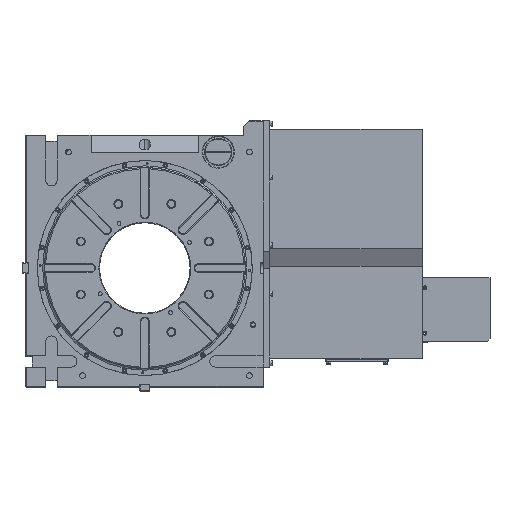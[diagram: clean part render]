
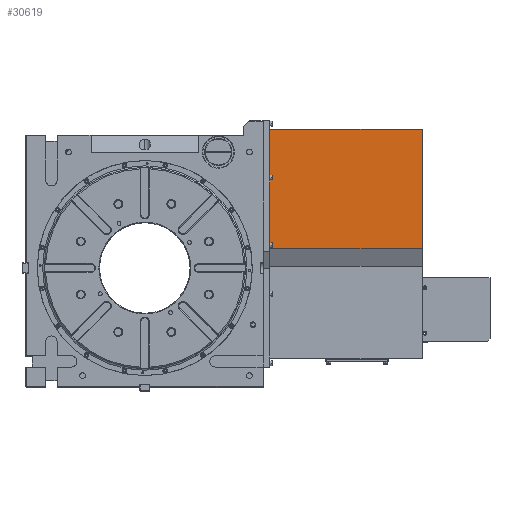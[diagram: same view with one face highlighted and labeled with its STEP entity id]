
A CAD part, top view. The second image highlights one B-rep face of the part: STEP entity #30619.
In plain terms, the highlighted planar face has unit normal (0, 0, 1).
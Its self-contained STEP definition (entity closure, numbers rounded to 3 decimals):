
#1564 = DIRECTION ( 'NONE',  ( -1., 0., 0. ) ) ;
#2101 = CARTESIAN_POINT ( 'NONE',  ( 490., -175., -25. ) ) ;
#3722 = LINE ( 'NONE', #24885, #12779 ) ;
#5637 = VECTOR ( 'NONE', #24547, 1000. ) ;
#8079 = EDGE_CURVE ( 'NONE', #52267, #21236, #36181, .T. ) ;
#8318 = DIRECTION ( 'NONE',  ( 0., 0., 1. ) ) ;
#8347 = CARTESIAN_POINT ( 'NONE',  ( 490., 245., -25. ) ) ;
#10067 = CARTESIAN_POINT ( 'NONE',  ( 490., 245., -25. ) ) ;
#10103 = LINE ( 'NONE', #26592, #38961 ) ;
#11175 = DIRECTION ( 'NONE',  ( 0., 1., 0. ) ) ;
#12779 = VECTOR ( 'NONE', #29283, 1000. ) ;
#13366 = ORIENTED_EDGE ( 'NONE', *, *, #40307, .F. ) ;
#14670 = AXIS2_PLACEMENT_3D ( 'NONE', #16542, #8318, #50066 ) ;
#16542 = CARTESIAN_POINT ( 'NONE',  ( 490., -175., -25. ) ) ;
#20128 = PLANE ( 'NONE',  #14670 ) ;
#21187 = CARTESIAN_POINT ( 'NONE',  ( 490., 33.739, -25. ) ) ;
#21236 = VERTEX_POINT ( 'NONE', #10067 ) ;
#23862 = VERTEX_POINT ( 'NONE', #33988 ) ;
#24547 = DIRECTION ( 'NONE',  ( -1., 0., 0. ) ) ;
#24885 = CARTESIAN_POINT ( 'NONE',  ( 221., -175., -25. ) ) ;
#26592 = CARTESIAN_POINT ( 'NONE',  ( 490., 33.739, -25. ) ) ;
#29283 = DIRECTION ( 'NONE',  ( 0., 1., 0. ) ) ;
#30619 = ADVANCED_FACE ( 'NONE', ( #33294 ), #20128, .T. ) ;
#33294 = FACE_OUTER_BOUND ( 'NONE', #50744, .T. ) ;
#33988 = CARTESIAN_POINT ( 'NONE',  ( 221., 245., -25. ) ) ;
#34474 = ORIENTED_EDGE ( 'NONE', *, *, #8079, .T. ) ;
#34477 = ORIENTED_EDGE ( 'NONE', *, *, #42009, .T. ) ;
#35029 = VECTOR ( 'NONE', #11175, 1000. ) ;
#36181 = LINE ( 'NONE', #2101, #35029 ) ;
#38961 = VECTOR ( 'NONE', #1564, 1000. ) ;
#39029 = EDGE_CURVE ( 'NONE', #52267, #45898, #10103, .T. ) ;
#40307 = EDGE_CURVE ( 'NONE', #45898, #23862, #3722, .T. ) ;
#40761 = LINE ( 'NONE', #8347, #5637 ) ;
#42009 = EDGE_CURVE ( 'NONE', #21236, #23862, #40761, .T. ) ;
#43014 = CARTESIAN_POINT ( 'NONE',  ( 221., 33.739, -25. ) ) ;
#45898 = VERTEX_POINT ( 'NONE', #43014 ) ;
#48884 = ORIENTED_EDGE ( 'NONE', *, *, #39029, .F. ) ;
#50066 = DIRECTION ( 'NONE',  ( 1., 0., 0. ) ) ;
#50744 = EDGE_LOOP ( 'NONE', ( #34477, #13366, #48884, #34474 ) ) ;
#52267 = VERTEX_POINT ( 'NONE', #21187 ) ;
